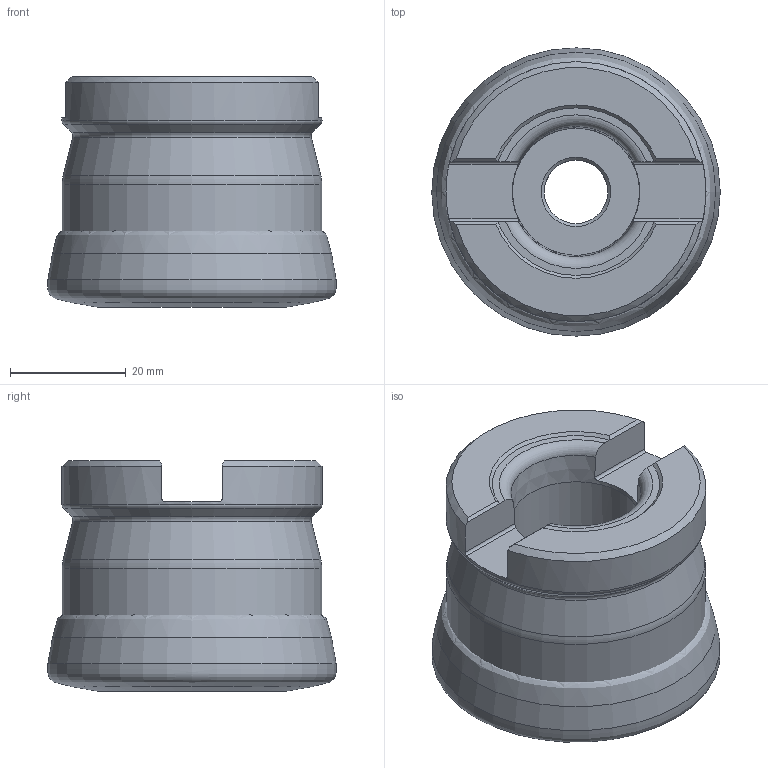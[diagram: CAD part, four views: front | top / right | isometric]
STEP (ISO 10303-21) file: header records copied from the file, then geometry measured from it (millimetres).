
FILE_DESCRIPTION(/* description */ (''),/* implementation_level */ '2;1');
FILE_NAME(/* name */ '637723481169042329.stp',/* time_stamp */ '2021-11-12T21:08:50+08:00',/* author */ (''),/* organization */ (''),/* preprocessor_version */ 'ST-DEVELOPER v16.7',/* originating_system */ 'SIEMENS PLM Software NX 12.0',/* authorisation */ '');
FILE_SCHEMA (('AUTOMOTIVE_DESIGN { 1 0 10303 214 3 1 1 1 }'));
Length unit declared in the file: millimetre
Products named in the file (2): 637723481121294804_SDMT120412-DM; 637723481103191287_XMR01-050-A22-SD12-05_S
Assembly tree (5 placements, depth 2):
  637723481103191287_XMR01-050-A22-SD12-05_S
    637723481121294804_SDMT120412-DM  x5
Bounding box: 49.9 x 49.9 x 39.9 mm (x, y, z)
Volume: 64353.6 mm3; surface area: 16036 mm2
Topology: 2 solids, 2 shells, 66 faces, 160 edges, 99 vertices
Faces by surface type: plane 19, cone 15, torus 14, cylinder 11, revolution 7
Full cylindrical faces by diameter (mm): 11 x1, 18 x1, 22 x1, 24 x1, 44.926 x1, 45 x1, 47.621 x1
Entity records: 2034 total; most frequent: CARTESIAN_POINT 621, DIRECTION 271, ORIENTED_EDGE 216, AXIS2_PLACEMENT_3D 120, EDGE_CURVE 108, EDGE_LOOP 106, VERTEX_POINT 84, FACE_BOUND 82
